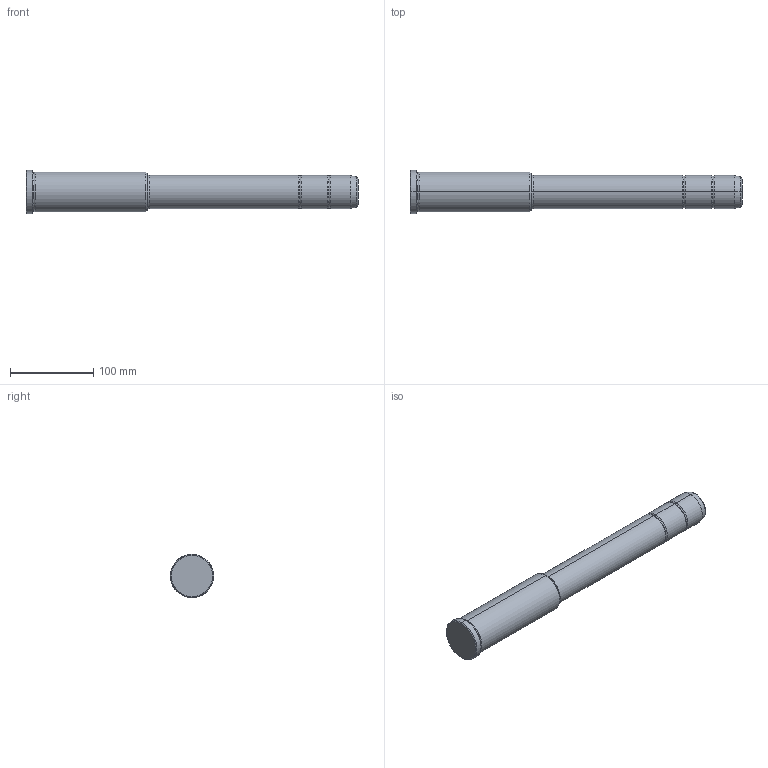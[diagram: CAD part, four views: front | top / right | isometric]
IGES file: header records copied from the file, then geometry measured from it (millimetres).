
Start section: START RECORD GO HERE.
Global section: file name: 351-40X146X400.igs; native system: DASSAULT SYSTEMES CATIA V5 R20 - www.3ds.com; preprocessor: CATIA Version 5 Release 20 ; author: Utente; organization: NB04-ASUS; date: 20211108.200117; units: millimetre
Bounding box: 400 x 52 x 52 mm (x, y, z)
Surface area: 57730.7 mm2 (no closed solid volume)
Topology: 0 solids, 0 shells, 36 faces, 204 edges, 204 vertices
Faces by surface type: revolution 32, plane 4
